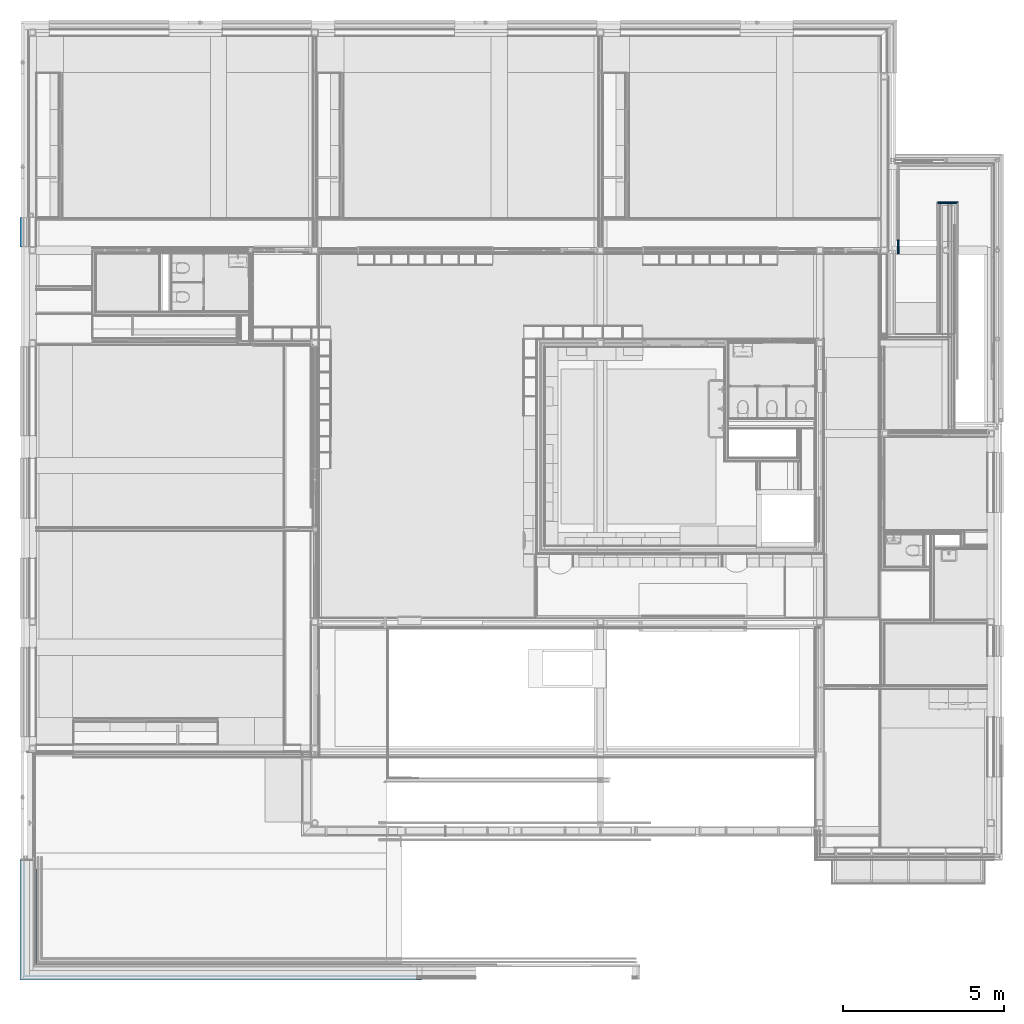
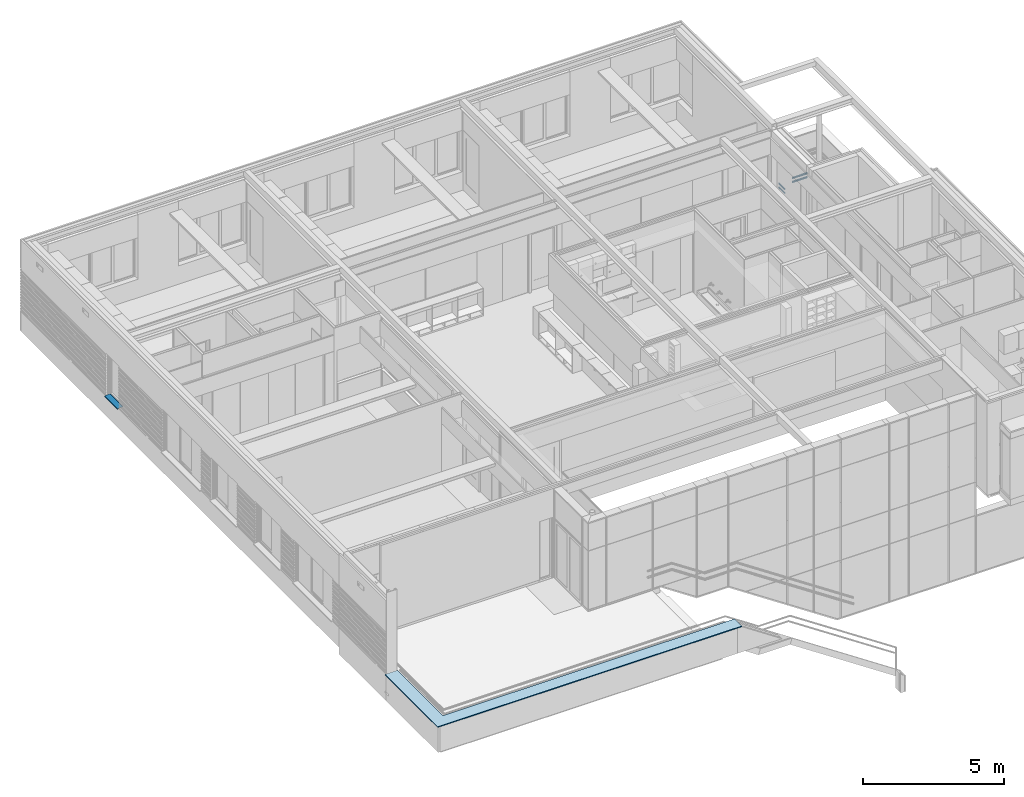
# One storey, part 34 of 137: 4 members, 1 beam, 1 slab, 2 elements without a shape of their own.
"""IFC2X3 building model written with IfcOpenShell, lengths in millimetres."""

from ifc_helpers import new_model, entity, si_unit, converted_unit, derived_unit, money_unit, direction, frame, origin_with_axes, place, context, subcontext, project, spatial, faceted_brep, material, type_object, element, aggregate, save


model = new_model("IFC2X3")

# Units and contexts
model_context = context("Model", 3, precision=0.01, world=origin_with_axes(), true_north=direction((0.0, 1.0)))
body_context = subcontext(model_context, "Body", "Model", "MODEL_VIEW")
ifc_project = project(units=[si_unit("LENGTHUNIT", "METRE", prefix="MILLI"), si_unit("AREAUNIT", "SQUARE_METRE"), si_unit("VOLUMEUNIT", "CUBIC_METRE"), converted_unit("PLANEANGLEUNIT", "DEGREE", entity("IfcPlaneAngleMeasure", 0.0174532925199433), si_unit("PLANEANGLEUNIT", "RADIAN"), dimensions=[0, 0, 0, 0, 0, 0, 0]), money_unit("EUR"), converted_unit("TIMEUNIT", "Year", entity("IfcTimeMeasure", 31556926.0), si_unit("TIMEUNIT", "SECOND"), dimensions=[0, 0, 1, 0, 0, 0, 0]), si_unit("MASSUNIT", "GRAM", prefix="KILO"), si_unit("THERMODYNAMICTEMPERATUREUNIT", "DEGREE_CELSIUS"), si_unit("LUMINOUSINTENSITYUNIT", "LUMEN"), si_unit("ENERGYUNIT", "JOULE", prefix="MEGA"), derived_unit("THERMALCONDUCTANCEUNIT", [(si_unit("POWERUNIT", "WATT"), 1), (si_unit("LENGTHUNIT", "METRE"), -1), (si_unit("THERMODYNAMICTEMPERATUREUNIT", "KELVIN"), -1)]), derived_unit("SPECIFICHEATCAPACITYUNIT", [(si_unit("ENERGYUNIT", "JOULE"), 1), (si_unit("MASSUNIT", "GRAM", prefix="KILO"), -1), (si_unit("THERMODYNAMICTEMPERATUREUNIT", "KELVIN"), -1)]), derived_unit("MASSDENSITYUNIT", [(si_unit("MASSUNIT", "GRAM", prefix="KILO"), 1), (si_unit("VOLUMEUNIT", "CUBIC_METRE"), -1)])], contexts=[model_context])

# Site, building, storey
site_placement = place(None, origin_with_axes())
site = spatial("IfcSite", under=ifc_project, at=site_placement, Name="Site", CompositionType="ELEMENT")
building_placement = place(site_placement, origin_with_axes())
building = spatial("IfcBuilding", under=site, at=building_placement, Name="Naam gebouw", CompositionType="ELEMENT")
storey_placement = place(building_placement, frame((0.0, 0.0, 3960.0), z_axis=(0.0, 0.0, 1.0), x_axis=(1.0, 0.0, 0.0)))
storey = spatial("IfcBuildingStorey", under=building, at=storey_placement, Name="1e verdieping", CompositionType="ELEMENT", Elevation=3960.0)

# Beam
ifc_material_1 = material(Name="Metaal - Aluminium")
beam_type = type_object("IfcBeamType", Name="41 Waterslag 218 x 75", PredefinedType="BEAM")
beam_placement = place(storey_placement, frame((-249.9999999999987, 22429.99984707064, 750.0), z_axis=(0.0, 0.0, 1.0), x_axis=(1.0, 0.0, 0.0)))
element("IfcBeam", 1, at=beam_placement, inside=storey, type_object=beam_type, material=ifc_material_1, Name="h4 Aluminium, aluminiumlegeringen_Regenwaterafvoer-x", ObjectType="BEAM", context=body_context, shape_type="Brep", body=[
    faceted_brep([(178.0000000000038, 0.0, 49.99999999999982), (178.0000000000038, 920.0000000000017, 49.99999999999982), (175.0000000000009, 920.0000000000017, 49.99999999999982), (175.0000000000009, 0.0, 49.99999999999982), (177.9999999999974, 0.0, 27.27462510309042), (177.9999999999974, 920.0000000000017, 27.27462510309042), (-36.99999999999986, 920.0000000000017, 12.08231741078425), (-36.99999999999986, 920.0000000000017, -21.99999999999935), (-21.9999999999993, 920.0000000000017, -21.99999999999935), (-21.9999999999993, 920.0000000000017, -24.99999999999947), (-39.99999999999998, 920.0000000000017, -24.99999999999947), (-39.99999999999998, 920.0000000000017, 15.00000000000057), (175.0000000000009, 920.0000000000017, 30.00000000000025), (175.0000000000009, 0.0, 30.00000000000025), (-39.99999999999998, 0.0, 15.00000000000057), (-39.99999999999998, 0.0, -24.99999999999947), (-21.9999999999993, 0.0, -24.99999999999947), (-21.9999999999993, 0.0, -21.99999999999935), (-36.99999999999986, 0.0, -21.99999999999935), (-36.99999999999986, 0.0, 12.08231741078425)], [[[0, 1, 2, 3]], [[4, 5, 1, 0]], [[2, 1, 5, 6, 7, 8, 9, 10, 11, 12]], [[3, 2, 12, 13]], [[4, 0, 3, 13, 14, 15, 16, 17, 18, 19]], [[19, 6, 5, 4]], [[18, 7, 6, 19]], [[17, 8, 7, 18]], [[16, 9, 8, 17]], [[15, 10, 9, 16]], [[14, 11, 10, 15]], [[13, 12, 11, 14]]]),
])

# Railing, members
railing_type = type_object("IfcRailingType", Name="Railing Type", PredefinedType="NOTDEFINED")
railing_1_placement = place(storey_placement, frame((29909.99996519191, 18712.73639114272, -3419.999937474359), z_axis=(0.0, 0.0, 1.0), x_axis=(1.0, 0.0, 0.0)))
railing_1 = element("IfcRailing", 2, at=railing_1_placement, inside=storey, type_object=railing_type, Name="34_Reling-x", PredefinedType="NOTDEFINED")
ifc_material_2 = material(Name="Metaal - RVS")
member_type = type_object("IfcMemberType", Name="IfcMember", PredefinedType="USERDEFINED")
member_1_placement = place(railing_1_placement, frame((-2979.999964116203, 3720.2519178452, 4252.917960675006), z_axis=(0.0, 0.0, 1.0), x_axis=(1.0, 0.0, 0.0)))
member_1 = element("IfcMember", 3, at=member_1_placement, type_object=member_type, material=ifc_material_2, Name="h3 Staal legeringen_", context=body_context, shape_type="Brep", body=[
    faceted_brep([(29.99999894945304, 202.9046468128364, 37.08203932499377), (29.54423153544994, 204.4819399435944, 42.29148465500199), (29.54423366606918, -211.9879157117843, 42.29148465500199), (30.00000107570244, -211.9879157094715, 37.08203932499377), (29.54423154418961, 201.3273536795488, 31.87259399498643), (28.19077758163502, 199.7979857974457, 26.82143502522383), (25.98076107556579, 198.3630122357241, 22.08203932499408), (22.98133225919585, 197.0660339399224, 17.79841103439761), (19.28362725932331, 195.946458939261, 14.10070603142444), (14.99999897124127, 195.0383049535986, 11.10127721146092), (10.26060327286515, 194.3691657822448, 8.891260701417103), (5.209444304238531, 193.9593728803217, 7.537806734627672), (-1.025387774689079e-06, 193.8213775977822, 7.082039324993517), (-5.209446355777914, 193.959372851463, 7.537806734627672), (-10.26060532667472, 194.3691657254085, 8.891260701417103), (-15.00000102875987, 195.0383048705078, 11.10127721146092), (-19.283629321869, 195.946458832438, 14.10070603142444), (-22.98133432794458, 197.066033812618, 17.79841103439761), (-25.98076315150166, 198.3630120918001, 22.08203932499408), (-28.19077966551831, 199.7979856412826, 26.82143502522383), (-29.54423363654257, 201.3273535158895, 31.87259399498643), (-30.00000105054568, 202.9046466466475, 37.08203932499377), (-29.54423364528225, 204.4819397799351, 42.29148465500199), (-28.19077968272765, 206.0113076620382, 47.3426436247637), (-25.98076317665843, 207.4462812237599, 52.08203932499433), (-22.98133436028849, 208.7432595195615, 56.36566761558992), (-19.28362936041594, 209.8628345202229, 60.06337261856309), (-15.0000010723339, 210.7709885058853, 63.06280143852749), (-10.26060537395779, 211.4401276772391, 65.27281794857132), (-5.209446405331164, 211.8499205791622, 66.62627191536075), (-1.075704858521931e-06, 211.9879158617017, 67.08203932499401), (5.20944425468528, 211.8499206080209, 66.62627191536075), (10.26060322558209, 211.4401277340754, 65.27281794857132), (14.99999892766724, 210.7709885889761, 63.06280143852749), (19.28362722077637, 209.8628346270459, 60.06337261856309), (22.98133222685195, 208.7432596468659, 56.36566761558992), (25.98076105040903, 207.4462813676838, 52.08203932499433), (28.19077756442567, 206.0113078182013, 47.3426436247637), (28.19077969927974, -211.9879157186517, 47.3426436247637), (25.98076318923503, -211.9879157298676, 52.08203932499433), (22.98133436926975, -211.9879157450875, 56.36566761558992), (19.28362936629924, -211.9879157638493, 60.06337261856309), (15.00000107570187, -211.9879157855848, 63.06280143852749), (10.26060537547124, -211.9879158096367, 65.27281794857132), (5.209446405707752, -211.987915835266, 66.62627191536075), (1.075701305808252e-06, -211.9879158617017, 67.08203932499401), (-5.20944425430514, -211.9879158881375, 66.62627191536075), (-10.26060322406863, -211.9879159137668, 65.27281794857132), (-14.99999892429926, -211.9879159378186, 63.06280143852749), (-19.28362721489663, -211.9879159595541, 60.06337261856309), (-22.98133221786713, -211.987915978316, 56.36566761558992), (-25.98076103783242, -211.9879159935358, 52.08203932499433), (-28.19077754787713, -211.9879160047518, 47.3426436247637), (-29.54423151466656, -211.9879160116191, 42.29148465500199), (-29.99999892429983, -211.987916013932, 37.08203932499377), (-29.54423151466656, -211.9879160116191, 31.87259399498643), (-28.19077754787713, -211.9879160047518, 26.82143502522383), (-25.98076103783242, -211.9879159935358, 22.08203932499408), (-22.98133221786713, -211.987915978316, 17.79841103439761), (-19.28362721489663, -211.9879159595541, 14.10070603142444), (-14.99999892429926, -211.9879159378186, 11.10127721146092), (-10.26060322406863, -211.9879159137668, 8.891260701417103), (-5.20944425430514, -211.9879158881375, 7.537806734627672), (1.075701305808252e-06, -211.9879158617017, 7.082039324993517), (5.209446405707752, -211.987915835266, 7.537806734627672), (10.26060537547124, -211.9879158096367, 8.891260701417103), (15.00000107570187, -211.9879157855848, 11.10127721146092), (19.28362936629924, -211.9879157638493, 14.10070603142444), (22.98133436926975, -211.9879157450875, 17.79841103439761), (25.98076318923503, -211.9879157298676, 22.08203932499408), (28.19077969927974, -211.9879157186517, 26.82143502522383), (29.54423366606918, -211.9879157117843, 31.87259399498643)], [[[0, 1, 2, 3]], [[0, 4, 5, 6, 7, 8, 9, 10, 11, 12, 13, 14, 15, 16, 17, 18, 19, 20, 21, 22, 23, 24, 25, 26, 27, 28, 29, 30, 31, 32, 33, 34, 35, 36, 37, 1]], [[1, 37, 38, 2]], [[3, 2, 38, 39, 40, 41, 42, 43, 44, 45, 46, 47, 48, 49, 50, 51, 52, 53, 54, 55, 56, 57, 58, 59, 60, 61, 62, 63, 64, 65, 66, 67, 68, 69, 70, 71]], [[4, 0, 3, 71]], [[5, 4, 71, 70]], [[6, 5, 70, 69]], [[7, 6, 69, 68]], [[8, 7, 68, 67]], [[9, 8, 67, 66]], [[10, 9, 66, 65]], [[11, 10, 65, 64]], [[12, 11, 64, 63]], [[13, 12, 63, 62]], [[14, 13, 62, 61]], [[15, 14, 61, 60]], [[16, 15, 60, 59]], [[17, 16, 59, 58]], [[18, 17, 58, 57]], [[19, 18, 57, 56]], [[20, 19, 56, 55]], [[21, 20, 55, 54]], [[22, 21, 54, 53]], [[23, 22, 53, 52]], [[24, 23, 52, 51]], [[25, 24, 51, 50]], [[26, 25, 50, 49]], [[27, 26, 49, 48]], [[28, 27, 48, 47]], [[29, 28, 47, 46]], [[30, 29, 46, 45]], [[31, 30, 45, 44]], [[32, 31, 44, 43]], [[33, 32, 43, 42]], [[34, 33, 42, 41]], [[35, 34, 41, 40]], [[36, 35, 40, 39]], [[37, 36, 39, 38]]]),
])
member_2_placement = place(railing_1_placement, frame((-2979.999964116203, 3720.2519178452, 4077.573593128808), z_axis=(0.0, 0.0, 1.0), x_axis=(1.0, 0.0, 0.0)))
member_2 = element("IfcMember", 4, at=member_2_placement, type_object=member_type, material=ifc_material_2, Name="h3 Staal legeringen_Regel-x", context=body_context, shape_type="Brep", body=[
    faceted_brep([(29.99999892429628, 211.9879159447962, 42.42640687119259), (29.54423151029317, 213.5652090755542, 47.63585220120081), (29.54423366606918, -211.9879157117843, 47.63585220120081), (30.00000107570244, -211.9879157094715, 42.42640687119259), (29.5442315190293, 210.4106228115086, 37.21696154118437), (28.19077755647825, 208.8812549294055, 32.16580257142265), (25.98076105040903, 207.4462813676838, 27.42640687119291), (22.98133223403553, 206.1493030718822, 23.14277858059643), (19.28362723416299, 205.0297280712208, 19.44507357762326), (14.9999989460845, 204.1215740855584, 16.44564475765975), (10.26060324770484, 203.4524349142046, 14.23562824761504), (5.209444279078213, 203.0426420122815, 12.8821742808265), (-1.050544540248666e-06, 202.904646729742, 12.42640687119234), (-5.209446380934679, 203.0426419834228, 12.8821742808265), (-10.26060535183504, 203.4524348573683, 14.23562824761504), (-15.00000105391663, 204.1215740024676, 16.44564475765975), (-19.28362934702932, 205.0297279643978, 19.44507357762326), (-22.98133435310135, 206.1493029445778, 23.14277858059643), (-25.98076317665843, 207.4462812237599, 27.42640687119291), (-28.19077969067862, 208.8812547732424, 32.16580257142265), (-29.54423366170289, 210.4106226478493, 37.21696154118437), (-30.000001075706, 211.9879157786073, 42.42640687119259), (-29.54423367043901, 213.5652089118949, 47.63585220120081), (-28.19077970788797, 215.094576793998, 52.68701117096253), (-25.98076320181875, 216.5295503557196, 57.42640687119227), (-22.98133438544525, 217.8265286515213, 61.71003516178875), (-19.28362938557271, 218.9461036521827, 65.40774016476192), (-15.00000109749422, 219.8542576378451, 68.40716898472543), (-10.26060539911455, 220.5233968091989, 70.61718549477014), (-5.20944643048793, 220.933189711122, 71.97063946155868), (-1.100865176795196e-06, 221.0711849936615, 72.42640687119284), (5.209444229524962, 220.9331897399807, 71.97063946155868), (10.26060320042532, 220.5233968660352, 70.61718549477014), (14.99999890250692, 219.8542577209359, 68.40716898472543), (19.2836271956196, 218.9461037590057, 65.40774016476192), (22.98133220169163, 217.8265287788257, 61.71003516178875), (25.98076102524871, 216.5295504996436, 57.42640687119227), (28.19077753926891, 215.0945769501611, 52.68701117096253), (28.19077969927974, -211.9879157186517, 52.68701117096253), (25.98076318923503, -211.9879157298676, 57.42640687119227), (22.98133436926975, -211.9879157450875, 61.71003516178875), (19.28362936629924, -211.9879157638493, 65.40774016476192), (15.00000107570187, -211.9879157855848, 68.40716898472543), (10.26060537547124, -211.9879158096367, 70.61718549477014), (5.209446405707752, -211.987915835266, 71.97063946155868), (1.075701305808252e-06, -211.9879158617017, 72.42640687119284), (-5.20944425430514, -211.9879158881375, 71.97063946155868), (-10.26060322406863, -211.9879159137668, 70.61718549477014), (-14.99999892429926, -211.9879159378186, 68.40716898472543), (-19.28362721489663, -211.9879159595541, 65.40774016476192), (-22.98133221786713, -211.987915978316, 61.71003516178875), (-25.98076103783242, -211.9879159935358, 57.42640687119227), (-28.19077754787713, -211.9879160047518, 52.68701117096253), (-29.54423151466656, -211.9879160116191, 47.63585220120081), (-29.99999892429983, -211.987916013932, 42.42640687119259), (-29.54423151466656, -211.9879160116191, 37.21696154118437), (-28.19077754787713, -211.9879160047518, 32.16580257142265), (-25.98076103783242, -211.9879159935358, 27.42640687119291), (-22.98133221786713, -211.987915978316, 23.14277858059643), (-19.28362721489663, -211.9879159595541, 19.44507357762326), (-14.99999892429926, -211.9879159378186, 16.44564475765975), (-10.26060322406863, -211.9879159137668, 14.23562824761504), (-5.20944425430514, -211.9879158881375, 12.8821742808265), (1.075701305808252e-06, -211.9879158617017, 12.42640687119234), (5.209446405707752, -211.987915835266, 12.8821742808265), (10.26060537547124, -211.9879158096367, 14.23562824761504), (15.00000107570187, -211.9879157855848, 16.44564475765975), (19.28362936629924, -211.9879157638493, 19.44507357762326), (22.98133436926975, -211.9879157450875, 23.14277858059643), (25.98076318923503, -211.9879157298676, 27.42640687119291), (28.19077969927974, -211.9879157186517, 32.16580257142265), (29.54423366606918, -211.9879157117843, 37.21696154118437)], [[[0, 1, 2, 3]], [[0, 4, 5, 6, 7, 8, 9, 10, 11, 12, 13, 14, 15, 16, 17, 18, 19, 20, 21, 22, 23, 24, 25, 26, 27, 28, 29, 30, 31, 32, 33, 34, 35, 36, 37, 1]], [[1, 37, 38, 2]], [[3, 2, 38, 39, 40, 41, 42, 43, 44, 45, 46, 47, 48, 49, 50, 51, 52, 53, 54, 55, 56, 57, 58, 59, 60, 61, 62, 63, 64, 65, 66, 67, 68, 69, 70, 71]], [[4, 0, 3, 71]], [[5, 4, 71, 70]], [[6, 5, 70, 69]], [[7, 6, 69, 68]], [[8, 7, 68, 67]], [[9, 8, 67, 66]], [[10, 9, 66, 65]], [[11, 10, 65, 64]], [[12, 11, 64, 63]], [[13, 12, 63, 62]], [[14, 13, 62, 61]], [[15, 14, 61, 60]], [[16, 15, 60, 59]], [[17, 16, 59, 58]], [[18, 17, 58, 57]], [[19, 18, 57, 56]], [[20, 19, 56, 55]], [[21, 20, 55, 54]], [[22, 21, 54, 53]], [[23, 22, 53, 52]], [[24, 23, 52, 51]], [[25, 24, 51, 50]], [[26, 25, 50, 49]], [[27, 26, 49, 48]], [[28, 27, 48, 47]], [[29, 28, 47, 46]], [[30, 29, 46, 45]], [[31, 30, 45, 44]], [[32, 31, 44, 43]], [[33, 32, 43, 42]], [[34, 33, 42, 41]], [[35, 34, 41, 40]], [[36, 35, 40, 39]], [[37, 36, 39, 38]]]),
])
aggregate(railing_1, [member_1, member_2])

railing_2_placement = place(storey_placement, frame((28276.00002397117, 22221.00039272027, -3419.999916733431), z_axis=(0.0, 0.0, 1.0), x_axis=(1.0, 0.0, 0.0)))
railing_2 = element("IfcRailing", 5, at=railing_2_placement, inside=storey, type_object=railing_type, Name="34_Reling-x", PredefinedType="NOTDEFINED")
member_3_placement = place(railing_2_placement, frame((180.499999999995, 1579.975817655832, 3352.917939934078), z_axis=(0.0, 0.0, 1.0), x_axis=(1.0, 0.0, 0.0)))
member_3 = element("IfcMember", 6, at=member_3_placement, type_object=member_type, material=ifc_material_2, Name="h3 Staal legeringen_", context=body_context, shape_type="Brep", body=[
    faceted_brep([(-299.4999999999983, 30.00000000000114, 37.08203932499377), (-299.4999999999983, 29.54423259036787, 42.29148465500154), (329.0442325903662, 29.54423259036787, 42.29148465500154), (329.4999999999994, 30.00000000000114, 37.08203932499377), (-299.4999999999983, 29.54423259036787, 31.87259399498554), (-299.4999999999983, 28.19077862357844, 26.82143502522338), (-299.4999999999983, 25.98076211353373, 22.08203932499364), (-299.4999999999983, 22.98133329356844, 17.79841103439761), (-299.4999999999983, 19.28362829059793, 14.10070603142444), (-299.4999999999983, 15.00000000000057, 11.10127721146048), (-299.4999999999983, 10.26060429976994, 8.891260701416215), (-299.4999999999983, 5.209445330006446, 7.537806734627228), (-299.4999999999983, 0.0, 7.082039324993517), (-299.4999999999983, -5.209445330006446, 7.537806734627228), (-299.4999999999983, -10.26060429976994, 8.891260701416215), (-299.4999999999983, -15.00000000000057, 11.10127721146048), (-299.4999999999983, -19.28362829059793, 14.10070603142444), (-299.4999999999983, -22.98133329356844, 17.79841103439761), (-299.4999999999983, -25.98076211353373, 22.08203932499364), (-299.4999999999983, -28.19077862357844, 26.82143502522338), (-299.4999999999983, -29.54423259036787, 31.87259399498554), (-299.4999999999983, -30.00000000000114, 37.08203932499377), (-299.4999999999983, -29.54423259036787, 42.29148465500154), (-299.4999999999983, -28.19077862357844, 47.3426436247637), (-299.4999999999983, -25.98076211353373, 52.08203932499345), (-299.4999999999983, -22.98133329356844, 56.36566761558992), (-299.4999999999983, -19.28362829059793, 60.06337261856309), (-299.4999999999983, -15.00000000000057, 63.06280143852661), (-299.4999999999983, -10.26060429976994, 65.27281794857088), (-299.4999999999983, -5.209445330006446, 66.62627191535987), (-299.4999999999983, 0.0, 67.08203932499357), (-299.4999999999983, 5.209445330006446, 66.62627191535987), (-299.4999999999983, 10.26060429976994, 65.27281794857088), (-299.4999999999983, 15.00000000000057, 63.06280143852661), (-299.4999999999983, 19.28362829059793, 60.06337261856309), (-299.4999999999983, 22.98133329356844, 56.36566761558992), (-299.4999999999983, 25.98076211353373, 52.08203932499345), (-299.4999999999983, 28.19077862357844, 47.3426436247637), (327.6907786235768, 28.19077862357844, 47.3426436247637), (325.480762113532, 25.98076211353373, 52.08203932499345), (322.4813332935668, 22.98133329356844, 56.36566761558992), (318.7836282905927, 19.28362829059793, 60.06337261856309), (314.4999999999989, 15.00000000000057, 63.06280143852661), (309.7606042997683, 10.26060429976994, 65.27281794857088), (304.7094453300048, 5.209445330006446, 66.62627191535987), (299.4999999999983, 0.0, 67.08203932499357), (294.2905546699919, -5.209445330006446, 66.62627191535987), (289.2393957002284, -10.26060429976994, 65.27281794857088), (284.4999999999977, -15.00000000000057, 63.06280143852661), (280.2163717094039, -19.28362829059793, 60.06337261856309), (276.5186667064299, -22.98133329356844, 56.36566761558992), (273.5192378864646, -25.98076211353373, 52.08203932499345), (271.3092213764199, -28.19077862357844, 47.3426436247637), (269.9557674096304, -29.54423259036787, 42.29148465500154), (269.4999999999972, -30.00000000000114, 37.08203932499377), (269.9557674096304, -29.54423259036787, 31.87259399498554), (271.3092213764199, -28.19077862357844, 26.82143502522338), (273.5192378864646, -25.98076211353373, 22.08203932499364), (276.5186667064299, -22.98133329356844, 17.79841103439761), (280.2163717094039, -19.28362829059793, 14.10070603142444), (284.4999999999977, -15.00000000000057, 11.10127721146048), (289.2393957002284, -10.26060429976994, 8.891260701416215), (294.2905546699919, -5.209445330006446, 7.537806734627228), (299.4999999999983, 0.0, 7.082039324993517), (304.7094453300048, 5.209445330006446, 7.537806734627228), (309.7606042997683, 10.26060429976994, 8.891260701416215), (314.4999999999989, 15.00000000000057, 11.10127721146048), (318.7836282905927, 19.28362829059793, 14.10070603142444), (322.4813332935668, 22.98133329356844, 17.79841103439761), (325.480762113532, 25.98076211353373, 22.08203932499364), (327.6907786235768, 28.19077862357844, 26.82143502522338), (329.0442325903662, 29.54423259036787, 31.87259399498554)], [[[0, 1, 2, 3]], [[0, 4, 5, 6, 7, 8, 9, 10, 11, 12, 13, 14, 15, 16, 17, 18, 19, 20, 21, 22, 23, 24, 25, 26, 27, 28, 29, 30, 31, 32, 33, 34, 35, 36, 37, 1]], [[1, 37, 38, 2]], [[3, 2, 38, 39, 40, 41, 42, 43, 44, 45, 46, 47, 48, 49, 50, 51, 52, 53, 54, 55, 56, 57, 58, 59, 60, 61, 62, 63, 64, 65, 66, 67, 68, 69, 70, 71]], [[4, 0, 3, 71]], [[5, 4, 71, 70]], [[6, 5, 70, 69]], [[7, 6, 69, 68]], [[8, 7, 68, 67]], [[9, 8, 67, 66]], [[10, 9, 66, 65]], [[11, 10, 65, 64]], [[12, 11, 64, 63]], [[13, 12, 63, 62]], [[14, 13, 62, 61]], [[15, 14, 61, 60]], [[16, 15, 60, 59]], [[17, 16, 59, 58]], [[18, 17, 58, 57]], [[19, 18, 57, 56]], [[20, 19, 56, 55]], [[21, 20, 55, 54]], [[22, 21, 54, 53]], [[23, 22, 53, 52]], [[24, 23, 52, 51]], [[25, 24, 51, 50]], [[26, 25, 50, 49]], [[27, 26, 49, 48]], [[28, 27, 48, 47]], [[29, 28, 47, 46]], [[30, 29, 46, 45]], [[31, 30, 45, 44]], [[32, 31, 44, 43]], [[33, 32, 43, 42]], [[34, 33, 42, 41]], [[35, 34, 41, 40]], [[36, 35, 40, 39]], [[37, 36, 39, 38]]]),
])
member_4_placement = place(railing_2_placement, frame((180.499999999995, 1579.975817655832, 3177.573572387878), z_axis=(0.0, 0.0, 1.0), x_axis=(1.0, 0.0, 0.0)))
member_4 = element("IfcMember", 7, at=member_4_placement, type_object=member_type, material=ifc_material_2, Name="h3 Staal legeringen_Regel-x", context=body_context, shape_type="Brep", body=[
    faceted_brep([(-299.4999999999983, 30.00000000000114, 42.42640687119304), (-299.4999999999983, 29.54423259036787, 47.63585220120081), (329.0442325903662, 29.54423259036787, 47.63585220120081), (329.4999999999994, 30.00000000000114, 42.42640687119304), (-299.4999999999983, 29.54423259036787, 37.21696154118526), (-299.4999999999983, 28.19077862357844, 32.1658025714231), (-299.4999999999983, 25.98076211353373, 27.42640687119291), (-299.4999999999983, 22.98133329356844, 23.14277858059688), (-299.4999999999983, 19.28362829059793, 19.44507357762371), (-299.4999999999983, 15.00000000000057, 16.44564475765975), (-299.4999999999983, 10.26060429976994, 14.23562824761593), (-299.4999999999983, 5.209445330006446, 12.88217428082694), (-299.4999999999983, 0.0, 12.42640687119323), (-299.4999999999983, -5.209445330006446, 12.88217428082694), (-299.4999999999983, -10.26060429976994, 14.23562824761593), (-299.4999999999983, -15.00000000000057, 16.44564475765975), (-299.4999999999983, -19.28362829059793, 19.44507357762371), (-299.4999999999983, -22.98133329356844, 23.14277858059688), (-299.4999999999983, -25.98076211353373, 27.42640687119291), (-299.4999999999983, -28.19077862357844, 32.1658025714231), (-299.4999999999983, -29.54423259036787, 37.21696154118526), (-299.4999999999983, -30.00000000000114, 42.42640687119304), (-299.4999999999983, -29.54423259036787, 47.63585220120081), (-299.4999999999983, -28.19077862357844, 52.68701117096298), (-299.4999999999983, -25.98076211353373, 57.42640687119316), (-299.4999999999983, -22.98133329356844, 61.71003516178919), (-299.4999999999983, -19.28362829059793, 65.40774016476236), (-299.4999999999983, -15.00000000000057, 68.40716898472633), (-299.4999999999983, -10.26060429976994, 70.61718549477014), (-299.4999999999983, -5.209445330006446, 71.97063946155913), (-299.4999999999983, 0.0, 72.42640687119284), (-299.4999999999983, 5.209445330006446, 71.97063946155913), (-299.4999999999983, 10.26060429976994, 70.61718549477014), (-299.4999999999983, 15.00000000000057, 68.40716898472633), (-299.4999999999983, 19.28362829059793, 65.40774016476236), (-299.4999999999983, 22.98133329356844, 61.71003516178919), (-299.4999999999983, 25.98076211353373, 57.42640687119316), (-299.4999999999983, 28.19077862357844, 52.68701117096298), (327.6907786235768, 28.19077862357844, 52.68701117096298), (325.480762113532, 25.98076211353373, 57.42640687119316), (322.4813332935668, 22.98133329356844, 61.71003516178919), (318.7836282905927, 19.28362829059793, 65.40774016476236), (314.4999999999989, 15.00000000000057, 68.40716898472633), (309.7606042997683, 10.26060429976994, 70.61718549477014), (304.7094453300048, 5.209445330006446, 71.97063946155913), (299.4999999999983, 0.0, 72.42640687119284), (294.2905546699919, -5.209445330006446, 71.97063946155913), (289.2393957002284, -10.26060429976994, 70.61718549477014), (284.4999999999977, -15.00000000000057, 68.40716898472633), (280.2163717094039, -19.28362829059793, 65.40774016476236), (276.5186667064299, -22.98133329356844, 61.71003516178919), (273.5192378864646, -25.98076211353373, 57.42640687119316), (271.3092213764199, -28.19077862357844, 52.68701117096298), (269.9557674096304, -29.54423259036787, 47.63585220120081), (269.4999999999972, -30.00000000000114, 42.42640687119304), (269.9557674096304, -29.54423259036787, 37.21696154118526), (271.3092213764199, -28.19077862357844, 32.1658025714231), (273.5192378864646, -25.98076211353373, 27.42640687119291), (276.5186667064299, -22.98133329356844, 23.14277858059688), (280.2163717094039, -19.28362829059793, 19.44507357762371), (284.4999999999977, -15.00000000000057, 16.44564475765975), (289.2393957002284, -10.26060429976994, 14.23562824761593), (294.2905546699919, -5.209445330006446, 12.88217428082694), (299.4999999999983, 0.0, 12.42640687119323), (304.7094453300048, 5.209445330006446, 12.88217428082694), (309.7606042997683, 10.26060429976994, 14.23562824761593), (314.4999999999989, 15.00000000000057, 16.44564475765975), (318.7836282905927, 19.28362829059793, 19.44507357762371), (322.4813332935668, 22.98133329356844, 23.14277858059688), (325.480762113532, 25.98076211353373, 27.42640687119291), (327.6907786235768, 28.19077862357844, 32.1658025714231), (329.0442325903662, 29.54423259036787, 37.21696154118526)], [[[0, 1, 2, 3]], [[0, 4, 5, 6, 7, 8, 9, 10, 11, 12, 13, 14, 15, 16, 17, 18, 19, 20, 21, 22, 23, 24, 25, 26, 27, 28, 29, 30, 31, 32, 33, 34, 35, 36, 37, 1]], [[1, 37, 38, 2]], [[3, 2, 38, 39, 40, 41, 42, 43, 44, 45, 46, 47, 48, 49, 50, 51, 52, 53, 54, 55, 56, 57, 58, 59, 60, 61, 62, 63, 64, 65, 66, 67, 68, 69, 70, 71]], [[4, 0, 3, 71]], [[5, 4, 71, 70]], [[6, 5, 70, 69]], [[7, 6, 69, 68]], [[8, 7, 68, 67]], [[9, 8, 67, 66]], [[10, 9, 66, 65]], [[11, 10, 65, 64]], [[12, 11, 64, 63]], [[13, 12, 63, 62]], [[14, 13, 62, 61]], [[15, 14, 61, 60]], [[16, 15, 60, 59]], [[17, 16, 59, 58]], [[18, 17, 58, 57]], [[19, 18, 57, 56]], [[20, 19, 56, 55]], [[21, 20, 55, 54]], [[22, 21, 54, 53]], [[23, 22, 53, 52]], [[24, 23, 52, 51]], [[25, 24, 51, 50]], [[26, 25, 50, 49]], [[27, 26, 49, 48]], [[28, 27, 48, 47]], [[29, 28, 47, 46]], [[30, 29, 46, 45]], [[31, 30, 45, 44]], [[32, 31, 44, 43]], [[33, 32, 43, 42]], [[34, 33, 42, 41]], [[35, 34, 41, 40]], [[36, 35, 40, 39]], [[37, 36, 39, 38]]]),
])
aggregate(railing_2, [member_3, member_4])

# Slab
slab_type = type_object("IfcSlabType", Name="Metaal - Aluminium 40", PredefinedType="NOTDEFINED")
slab_placement = place(storey_placement, frame((-289.9999832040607, 3448.999976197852, 725.0000000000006), z_axis=(0.0, 0.0, 1.0), x_axis=(1.0, 0.0, 0.0)))
element("IfcSlab", 8, at=slab_placement, inside=storey, type_object=slab_type, material=ifc_material_1, Name="h4 Aluminium, aluminiumlegeringen_Vloer-x", PredefinedType="NOTDEFINED", context=body_context, shape_type="Brep", body=[
    faceted_brep([(0.0, 0.0, 40.00000000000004), (0.0, 0.0, 0.0), (0.0, -3738.999976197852, 0.0), (0.0, -3738.999976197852, 40.00000000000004), (510.0000000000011, 0.0, 40.00000000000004), (510.0000000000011, 0.0, 0.0), (509.9999999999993, -3228.999976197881, 0.0), (12464.61098994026, -3228.999976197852, 0.0), (12464.61098994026, -3738.999976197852, 0.0), (12464.61098994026, -3738.999976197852, 40.00000000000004), (12464.61098994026, -3228.999976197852, 40.00000000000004), (509.9999999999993, -3228.999976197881, 40.00000000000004)], [[[0, 1, 2, 3]], [[4, 5, 1, 0]], [[2, 1, 5, 6, 7, 8]], [[3, 2, 8, 9]], [[4, 0, 3, 9, 10, 11]], [[11, 6, 5, 4]], [[10, 7, 6, 11]], [[9, 8, 7, 10]]]),
])

save(model, "model.ifc")
